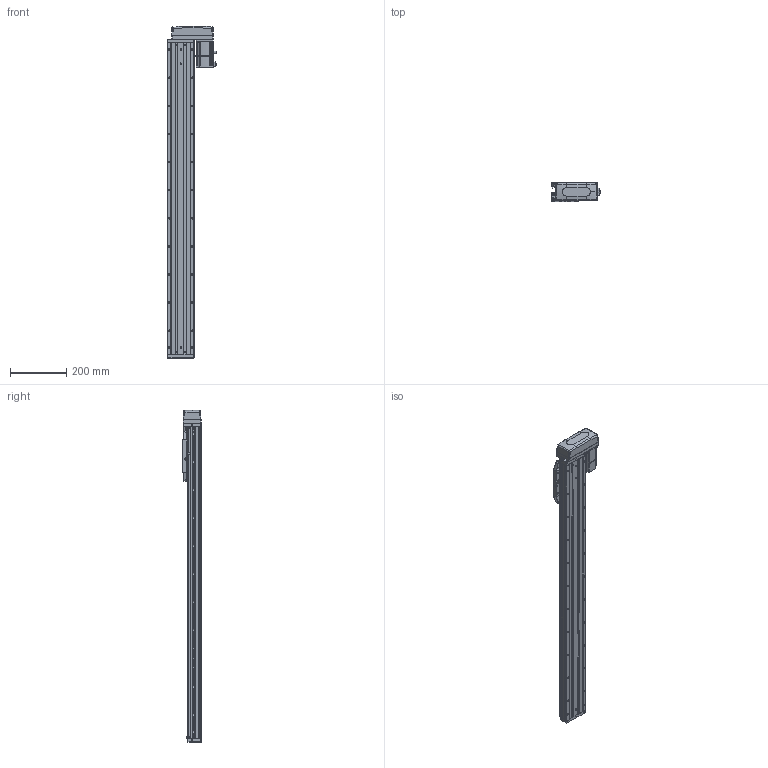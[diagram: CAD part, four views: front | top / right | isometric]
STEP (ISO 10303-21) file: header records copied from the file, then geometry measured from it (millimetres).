
FILE_DESCRIPTION (( 'STEP AP203' ), '1' );
FILE_NAME ('CTHA100-900-BL-M20-C4L.step', '2022-07-06T08:59:04', ( '微软用户' ), ( '微软中国' ), 'SwSTEP 2.0', 'SolidWorks 2020', '' );
FILE_SCHEMA (( 'CONFIG_CONTROL_DESIGN' ));
Length unit declared in the file: millimetre
Products named in the file (19): CTHA60-017; CTHA100-002; CTHA60-021; CTHA100-031; KTHA100-001_1110; GBT77-2000 M3×3; CTHA86-030; KTHA100-004; GBT 70.1-M3℅6; GBT 70.3-M3℅6; KTHA100-005; GBT70.1 M5℅16; CTHA86-015-1_CTHA86-015-2; GB¨uT 70.2-M3¡Á5_M3¡Á6; CTHA60-016; CTHA86-033; EE_SX911P_R; _X2_4E0983F1_X0_200W_1; CTHA100-900-BL-M20-C4L
Assembly tree (64 placements, depth 2):
  CTHA100-900-BL-M20-C4L
    KTHA100-001_1110
    KTHA100-004
    KTHA100-005
    GB¨uT 70.2-M3¡Á5_M3¡Á6  x10
    EE_SX911P_R  x3
    CTHA60-017  x3
    CTHA60-021  x2
    GBT77-2000 M3×3  x6
    GBT 70.1-M3℅6  x10
    GBT70.1 M5℅16  x14
    CTHA60-016  x2
    _X2_4E0983F1_X0_200W_1
    CTHA100-002
    CTHA100-031
    CTHA86-030  x2
    GBT 70.3-M3℅6  x4
    CTHA86-015-1_CTHA86-015-2
    CTHA86-033
Bounding box: 177.7 x 68 x 1181 mm (x, y, z)
Volume: 4747044.2 mm3; surface area: 788363.2 mm2
Topology: 66 solids, 66 shells, 2749 faces, 6639 edges, 4120 vertices
Faces by surface type: plane 1440, cylinder 725, cone 361, torus 124, bspline 75, sphere 24
Entity records: 48576 total; most frequent: CARTESIAN_POINT 9483, DIRECTION 7534, ORIENTED_EDGE 7394, EDGE_CURVE 3697, AXIS2_PLACEMENT_3D 2543, VECTOR 2448, LINE 2448, VERTEX_POINT 2340
